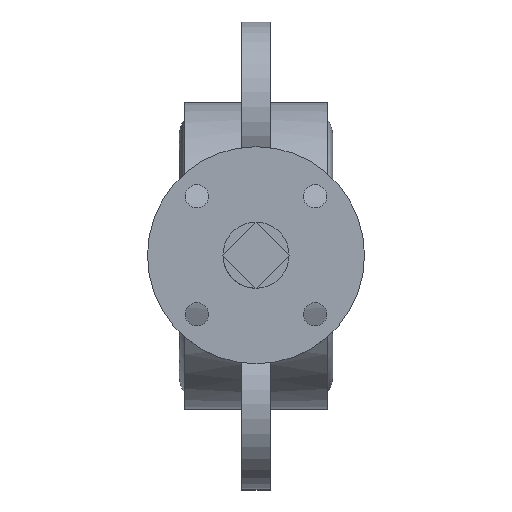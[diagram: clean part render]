
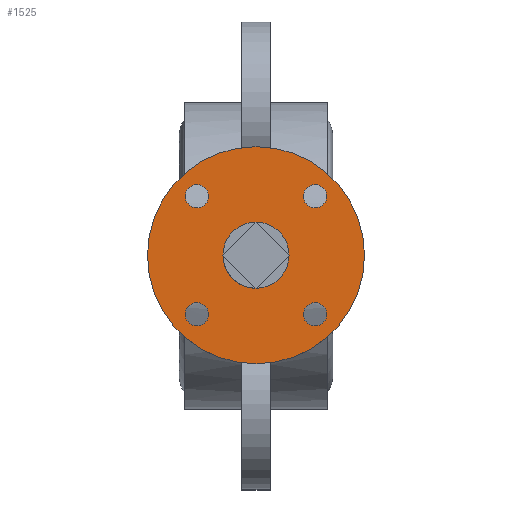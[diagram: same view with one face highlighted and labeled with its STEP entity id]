
A CAD part, top view. The second image highlights one B-rep face of the part: STEP entity #1525.
In plain terms, the highlighted planar face has unit normal (0, 0, 1).
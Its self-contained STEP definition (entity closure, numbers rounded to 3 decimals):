
#1525=ADVANCED_FACE('',(#4321,#4323,#4325,#4327,#4329,#4331),#4333,.T.);
#4321=FACE_BOUND('',#4322,.T.);
#4322=EDGE_LOOP('',(#7193));
#4323=FACE_BOUND('',#4324,.T.);
#4324=EDGE_LOOP('',(#7194));
#4325=FACE_BOUND('',#4326,.T.);
#4326=EDGE_LOOP('',(#7195));
#4327=FACE_BOUND('',#4328,.T.);
#4328=EDGE_LOOP('',(#7196));
#4329=FACE_BOUND('',#4330,.T.);
#4330=EDGE_LOOP('',(#7197));
#4331=FACE_BOUND('',#4332,.T.);
#4332=EDGE_LOOP('',(#7198));
#4333=PLANE('',#4334);
#4334=AXIS2_PLACEMENT_3D('',#4335,#4336,#4337);
#4335=CARTESIAN_POINT('',(0.,0.,130.));
#4336=DIRECTION('',(0.,0.,1.));
#4337=DIRECTION('',(0.,-1.,0.));
#7193=ORIENTED_EDGE('',*,*,#8894,.T.);
#7194=ORIENTED_EDGE('',*,*,#9086,.T.);
#7195=ORIENTED_EDGE('',*,*,#8895,.T.);
#7196=ORIENTED_EDGE('',*,*,#8896,.T.);
#7197=ORIENTED_EDGE('',*,*,#8897,.T.);
#7198=ORIENTED_EDGE('',*,*,#8898,.T.);
#8894=EDGE_CURVE('',#10274,#10274,#10275,.T.);
#8895=EDGE_CURVE('',#10276,#10276,#10277,.F.);
#8896=EDGE_CURVE('',#10278,#10278,#10279,.F.);
#8897=EDGE_CURVE('',#10280,#10280,#10281,.F.);
#8898=EDGE_CURVE('',#10282,#10282,#10283,.F.);
#9086=EDGE_CURVE('',#10589,#10589,#10590,.F.);
#10274=VERTEX_POINT('',#13427);
#10275=CIRCLE('',#13428,32.5);
#10276=VERTEX_POINT('',#13432);
#10277=CIRCLE('',#13433,3.5);
#10278=VERTEX_POINT('',#13437);
#10279=CIRCLE('',#13438,3.5);
#10280=VERTEX_POINT('',#13442);
#10281=CIRCLE('',#13443,3.5);
#10282=VERTEX_POINT('',#13447);
#10283=CIRCLE('',#13448,3.5);
#10589=VERTEX_POINT('',#14146);
#10590=CIRCLE('',#14147,9.899);
#13427=CARTESIAN_POINT('',(-32.5,0.,130.));
#13428=AXIS2_PLACEMENT_3D('',#13429,#13430,#13431);
#13429=CARTESIAN_POINT('',(0.,0.,130.));
#13430=DIRECTION('',(0.,0.,1.));
#13431=DIRECTION('',(-1.,0.,0.));
#13432=CARTESIAN_POINT('',(-21.178,-17.678,130.));
#13433=AXIS2_PLACEMENT_3D('',#13434,#13435,#13436);
#13434=CARTESIAN_POINT('',(-17.678,-17.678,130.));
#13435=DIRECTION('',(0.,0.,1.));
#13436=DIRECTION('',(-1.,0.,0.));
#13437=CARTESIAN_POINT('',(17.678,-21.178,130.));
#13438=AXIS2_PLACEMENT_3D('',#13439,#13440,#13441);
#13439=CARTESIAN_POINT('',(17.678,-17.678,130.));
#13440=DIRECTION('',(0.,0.,1.));
#13441=DIRECTION('',(0.,-1.,0.));
#13442=CARTESIAN_POINT('',(21.178,17.678,130.));
#13443=AXIS2_PLACEMENT_3D('',#13444,#13445,#13446);
#13444=CARTESIAN_POINT('',(17.678,17.678,130.));
#13445=DIRECTION('',(0.,0.,1.));
#13446=DIRECTION('',(1.,0.,0.));
#13447=CARTESIAN_POINT('',(-17.678,21.178,130.));
#13448=AXIS2_PLACEMENT_3D('',#13449,#13450,#13451);
#13449=CARTESIAN_POINT('',(-17.678,17.678,130.));
#13450=DIRECTION('',(0.,0.,1.));
#13451=DIRECTION('',(0.,1.,0.));
#14146=CARTESIAN_POINT('',(0.,-9.899,130.));
#14147=AXIS2_PLACEMENT_3D('',#14148,#14149,#14150);
#14148=CARTESIAN_POINT('',(0.,0.,130.));
#14149=DIRECTION('',(0.,0.,1.));
#14150=DIRECTION('',(0.,-1.,0.));
